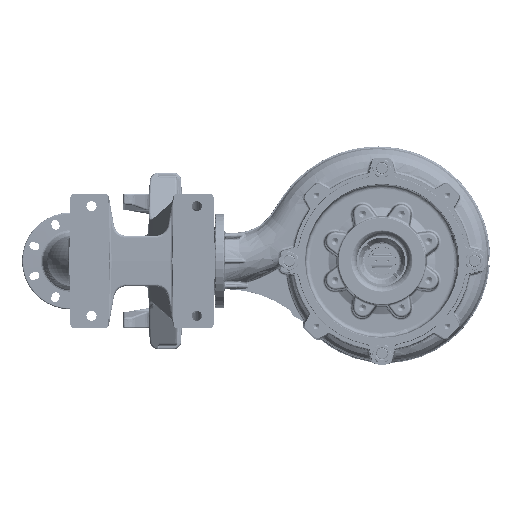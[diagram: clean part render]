
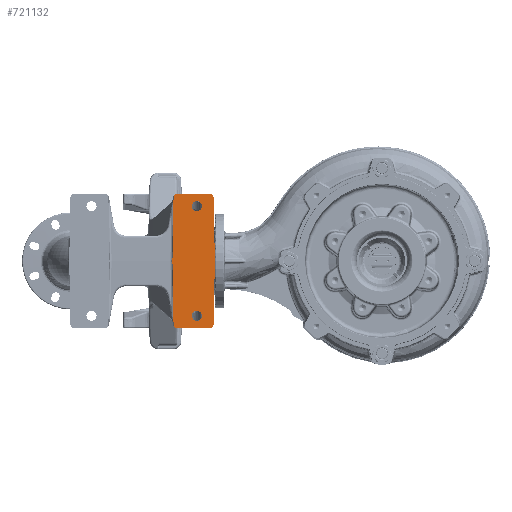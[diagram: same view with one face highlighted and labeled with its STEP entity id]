
A CAD part, front view. The second image highlights one B-rep face of the part: STEP entity #721132.
In plain terms, the highlighted planar face has unit normal (0, -1, 0).
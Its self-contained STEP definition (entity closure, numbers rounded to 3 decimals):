
#9532 = CARTESIAN_POINT ( 'NONE',  ( -396.707, -621.5, 0. ) ) ;
#11090 = EDGE_CURVE ( 'NONE', #137521, #306264, #439584, .T. ) ;
#11828 = EDGE_CURVE ( 'NONE', #268573, #730000, #675933, .T. ) ;
#15933 = DIRECTION ( 'NONE',  ( 0., -1., 0. ) ) ;
#29213 = CARTESIAN_POINT ( 'NONE',  ( -489.612, -621.5, 153.568 ) ) ;
#30711 = DIRECTION ( 'NONE',  ( 0., -1., 0. ) ) ;
#32012 = DIRECTION ( 'NONE',  ( 0.017, 0., -1. ) ) ;
#36481 = DIRECTION ( 'NONE',  ( 0., -1., 0. ) ) ;
#38015 = DIRECTION ( 'NONE',  ( -0.017, 0., 1. ) ) ;
#38742 = VERTEX_POINT ( 'NONE', #73725 ) ;
#43622 = VECTOR ( 'NONE', #437874, 1000. ) ;
#50544 = EDGE_CURVE ( 'NONE', #708107, #38742, #566057, .T. ) ;
#50719 = CIRCLE ( 'NONE', #117660, 12. ) ;
#58682 = EDGE_LOOP ( 'NONE', ( #275564, #222918 ) ) ;
#59804 = VERTEX_POINT ( 'NONE', #620008 ) ;
#65448 = CARTESIAN_POINT ( 'NONE',  ( -486.109, -621.5, 150. ) ) ;
#73725 = CARTESIAN_POINT ( 'NONE',  ( -439.5, -621.5, 118. ) ) ;
#73907 = LINE ( 'NONE', #298859, #719569 ) ;
#77558 = CARTESIAN_POINT ( 'NONE',  ( -497.293, -621.5, 0. ) ) ;
#97690 = VERTEX_POINT ( 'NONE', #9532 ) ;
#104923 = LINE ( 'NONE', #325661, #361693 ) ;
#105844 = VERTEX_POINT ( 'NONE', #214699 ) ;
#109395 = ORIENTED_EDGE ( 'NONE', *, *, #448681, .T. ) ;
#117660 = AXIS2_PLACEMENT_3D ( 'NONE', #179344, #15933, #181785 ) ;
#120887 = CARTESIAN_POINT ( 'NONE',  ( -439.5, -621.5, -130. ) ) ;
#126090 = ORIENTED_EDGE ( 'NONE', *, *, #671646, .T. ) ;
#127754 = AXIS2_PLACEMENT_3D ( 'NONE', #120887, #175293, #629973 ) ;
#129416 = ORIENTED_EDGE ( 'NONE', *, *, #459399, .T. ) ;
#137521 = VERTEX_POINT ( 'NONE', #640106 ) ;
#141893 = CARTESIAN_POINT ( 'NONE',  ( -409.327, -621.5, 150. ) ) ;
#153731 = ORIENTED_EDGE ( 'NONE', *, *, #11828, .T. ) ;
#155220 = DIRECTION ( 'NONE',  ( -1., 0., 0. ) ) ;
#169683 = ORIENTED_EDGE ( 'NONE', *, *, #672822, .T. ) ;
#175293 = DIRECTION ( 'NONE',  ( 0., -1., 0. ) ) ;
#176038 = PLANE ( 'NONE',  #226336 ) ;
#179344 = CARTESIAN_POINT ( 'NONE',  ( -439.5, -621.5, -130. ) ) ;
#181785 = DIRECTION ( 'NONE',  ( 0., 0., -1. ) ) ;
#190250 = CARTESIAN_POINT ( 'NONE',  ( -493.114, -621.5, 157.137 ) ) ;
#193368 = CARTESIAN_POINT ( 'NONE',  ( -399.5, -621.5, -160. ) ) ;
#193813 = EDGE_CURVE ( 'NONE', #38742, #708107, #530455, .T. ) ;
#204655 = CARTESIAN_POINT ( 'NONE',  ( -489.612, -621.5, -153.568 ) ) ;
#209149 = CARTESIAN_POINT ( 'NONE',  ( -409.327, -621.5, 160. ) ) ;
#210196 = CARTESIAN_POINT ( 'NONE',  ( -494.611, -621.5, 153.656 ) ) ;
#214451 = CARTESIAN_POINT ( 'NONE',  ( -439.5, -621.5, 130. ) ) ;
#214699 = CARTESIAN_POINT ( 'NONE',  ( -409.327, -621.5, -160. ) ) ;
#222918 = ORIENTED_EDGE ( 'NONE', *, *, #11090, .F. ) ;
#224498 = CIRCLE ( 'NONE', #658396, 10. ) ;
#225039 = AXIS2_PLACEMENT_3D ( 'NONE', #665712, #487813, #260406 ) ;
#226336 = AXIS2_PLACEMENT_3D ( 'NONE', #677932, #339272, #341696 ) ;
#231754 = VERTEX_POINT ( 'NONE', #671411 ) ;
#233994 = EDGE_CURVE ( 'NONE', #730000, #105844, #73907, .T. ) ;
#236405 = FACE_BOUND ( 'NONE', #286427, .T. ) ;
#246708 = AXIS2_PLACEMENT_3D ( 'NONE', #629130, #411414, #525195 ) ;
#254207 = DIRECTION ( 'NONE',  ( 0., 0., 1. ) ) ;
#257936 = EDGE_CURVE ( 'NONE', #586119, #97690, #397244, .T. ) ;
#260406 = DIRECTION ( 'NONE',  ( 0., 0., -1. ) ) ;
#265272 = VERTEX_POINT ( 'NONE', #77558 ) ;
#268573 = VERTEX_POINT ( 'NONE', #642783 ) ;
#271307 = DIRECTION ( 'NONE',  ( 0., -1., 0. ) ) ;
#275564 = ORIENTED_EDGE ( 'NONE', *, *, #538939, .F. ) ;
#283148 = VERTEX_POINT ( 'NONE', #190250 ) ;
#286427 = EDGE_LOOP ( 'NONE', ( #543045, #478180 ) ) ;
#291325 = EDGE_CURVE ( 'NONE', #231754, #283148, #638034, .T. ) ;
#292022 = CARTESIAN_POINT ( 'NONE',  ( -399.328, -621.5, -150.175 ) ) ;
#298859 = CARTESIAN_POINT ( 'NONE',  ( -399.5, -621.5, -160. ) ) ;
#305247 = DIRECTION ( 'NONE',  ( 0., 0., 1. ) ) ;
#306264 = VERTEX_POINT ( 'NONE', #670566 ) ;
#306995 = DIRECTION ( 'NONE',  ( 0.017, 0., 1. ) ) ;
#325661 = CARTESIAN_POINT ( 'NONE',  ( -399.5, -621.5, 160. ) ) ;
#339272 = DIRECTION ( 'NONE',  ( 0., 1., 0. ) ) ;
#341696 = DIRECTION ( 'NONE',  ( 0., 0., 1. ) ) ;
#347178 = VERTEX_POINT ( 'NONE', #210196 ) ;
#361693 = VECTOR ( 'NONE', #155220, 1000. ) ;
#363397 = EDGE_CURVE ( 'NONE', #347178, #265272, #724742, .T. ) ;
#369161 = DIRECTION ( 'NONE',  ( 0., -1., 0. ) ) ;
#369416 = CARTESIAN_POINT ( 'NONE',  ( -409.327, -621.5, -150. ) ) ;
#371132 = VECTOR ( 'NONE', #306995, 1000. ) ;
#380337 = CIRCLE ( 'NONE', #608281, 10. ) ;
#386804 = LINE ( 'NONE', #481978, #528027 ) ;
#394118 = CIRCLE ( 'NONE', #651947, 5. ) ;
#397244 = LINE ( 'NONE', #193368, #371132 ) ;
#411414 = DIRECTION ( 'NONE',  ( 0., -1., 0. ) ) ;
#428197 = ORIENTED_EDGE ( 'NONE', *, *, #657515, .T. ) ;
#433038 = CARTESIAN_POINT ( 'NONE',  ( -494.5, -621.5, 160. ) ) ;
#437874 = DIRECTION ( 'NONE',  ( -0.017, 0., -1. ) ) ;
#439584 = CIRCLE ( 'NONE', #127754, 12. ) ;
#447651 = VERTEX_POINT ( 'NONE', #209149 ) ;
#448681 = EDGE_CURVE ( 'NONE', #97690, #453765, #655710, .T. ) ;
#453765 = VERTEX_POINT ( 'NONE', #554873 ) ;
#455619 = ORIENTED_EDGE ( 'NONE', *, *, #465750, .T. ) ;
#459399 = EDGE_CURVE ( 'NONE', #59804, #268573, #394118, .T. ) ;
#465750 = EDGE_CURVE ( 'NONE', #283148, #347178, #548310, .T. ) ;
#474287 = DIRECTION ( 'NONE',  ( 1., 0., 0. ) ) ;
#478180 = ORIENTED_EDGE ( 'NONE', *, *, #50544, .F. ) ;
#480416 = DIRECTION ( 'NONE',  ( 0., 0., 1. ) ) ;
#481978 = CARTESIAN_POINT ( 'NONE',  ( -494.5, -621.5, -160. ) ) ;
#484012 = FACE_BOUND ( 'NONE', #58682, .T. ) ;
#487813 = DIRECTION ( 'NONE',  ( 0., -1., 0. ) ) ;
#493207 = FACE_OUTER_BOUND ( 'NONE', #538618, .T. ) ;
#515242 = DIRECTION ( 'NONE',  ( 0., -1., 0. ) ) ;
#525195 = DIRECTION ( 'NONE',  ( 0., 0., 1. ) ) ;
#528027 = VECTOR ( 'NONE', #32012, 1000. ) ;
#530455 = CIRCLE ( 'NONE', #225039, 12. ) ;
#535453 = AXIS2_PLACEMENT_3D ( 'NONE', #65448, #515242, #685920 ) ;
#538618 = EDGE_LOOP ( 'NONE', ( #126090, #129416, #153731, #646490, #169683, #729573, #109395, #428197, #586761, #689685, #455619, #624311 ) ) ;
#538939 = EDGE_CURVE ( 'NONE', #306264, #137521, #50719, .T. ) ;
#543045 = ORIENTED_EDGE ( 'NONE', *, *, #193813, .F. ) ;
#547280 = AXIS2_PLACEMENT_3D ( 'NONE', #29213, #657044, #704214 ) ;
#548310 = CIRCLE ( 'NONE', #547280, 5. ) ;
#554873 = CARTESIAN_POINT ( 'NONE',  ( -399.328, -621.5, 150.175 ) ) ;
#566057 = CIRCLE ( 'NONE', #609525, 12. ) ;
#586119 = VERTEX_POINT ( 'NONE', #292022 ) ;
#586761 = ORIENTED_EDGE ( 'NONE', *, *, #659960, .T. ) ;
#593162 = VECTOR ( 'NONE', #38015, 1000. ) ;
#608281 = AXIS2_PLACEMENT_3D ( 'NONE', #141893, #369161, #480416 ) ;
#609525 = AXIS2_PLACEMENT_3D ( 'NONE', #214451, #271307, #728662 ) ;
#620008 = CARTESIAN_POINT ( 'NONE',  ( -494.611, -621.5, -153.656 ) ) ;
#624311 = ORIENTED_EDGE ( 'NONE', *, *, #363397, .T. ) ;
#628343 = CARTESIAN_POINT ( 'NONE',  ( -439.5, -621.5, 142. ) ) ;
#629130 = CARTESIAN_POINT ( 'NONE',  ( -486.109, -621.5, -150. ) ) ;
#629973 = DIRECTION ( 'NONE',  ( 0., 0., -1. ) ) ;
#638034 = CIRCLE ( 'NONE', #535453, 10. ) ;
#640106 = CARTESIAN_POINT ( 'NONE',  ( -439.5, -621.5, -118. ) ) ;
#642783 = CARTESIAN_POINT ( 'NONE',  ( -493.114, -621.5, -157.137 ) ) ;
#646490 = ORIENTED_EDGE ( 'NONE', *, *, #233994, .T. ) ;
#651947 = AXIS2_PLACEMENT_3D ( 'NONE', #204655, #36481, #254207 ) ;
#655710 = LINE ( 'NONE', #710633, #593162 ) ;
#657044 = DIRECTION ( 'NONE',  ( 0., -1., 0. ) ) ;
#657515 = EDGE_CURVE ( 'NONE', #453765, #447651, #380337, .T. ) ;
#658396 = AXIS2_PLACEMENT_3D ( 'NONE', #369416, #30711, #305247 ) ;
#659960 = EDGE_CURVE ( 'NONE', #447651, #231754, #104923, .T. ) ;
#665712 = CARTESIAN_POINT ( 'NONE',  ( -439.5, -621.5, 130. ) ) ;
#670566 = CARTESIAN_POINT ( 'NONE',  ( -439.5, -621.5, -142. ) ) ;
#671411 = CARTESIAN_POINT ( 'NONE',  ( -486.109, -621.5, 160. ) ) ;
#671646 = EDGE_CURVE ( 'NONE', #265272, #59804, #386804, .T. ) ;
#672822 = EDGE_CURVE ( 'NONE', #105844, #586119, #224498, .T. ) ;
#675933 = CIRCLE ( 'NONE', #246708, 10. ) ;
#677932 = CARTESIAN_POINT ( 'NONE',  ( -500.086, -621.5, -160. ) ) ;
#685920 = DIRECTION ( 'NONE',  ( 0., 0., 1. ) ) ;
#689685 = ORIENTED_EDGE ( 'NONE', *, *, #291325, .T. ) ;
#694702 = CARTESIAN_POINT ( 'NONE',  ( -486.109, -621.5, -160. ) ) ;
#704214 = DIRECTION ( 'NONE',  ( 0., 0., 1. ) ) ;
#708107 = VERTEX_POINT ( 'NONE', #628343 ) ;
#710633 = CARTESIAN_POINT ( 'NONE',  ( -396.707, -621.5, 0. ) ) ;
#719569 = VECTOR ( 'NONE', #474287, 1000. ) ;
#721132 = ADVANCED_FACE ( 'NONE', ( #484012, #236405, #493207 ), #176038, .F. ) ;
#724742 = LINE ( 'NONE', #433038, #43622 ) ;
#728662 = DIRECTION ( 'NONE',  ( 0., 0., -1. ) ) ;
#729573 = ORIENTED_EDGE ( 'NONE', *, *, #257936, .T. ) ;
#730000 = VERTEX_POINT ( 'NONE', #694702 ) ;
